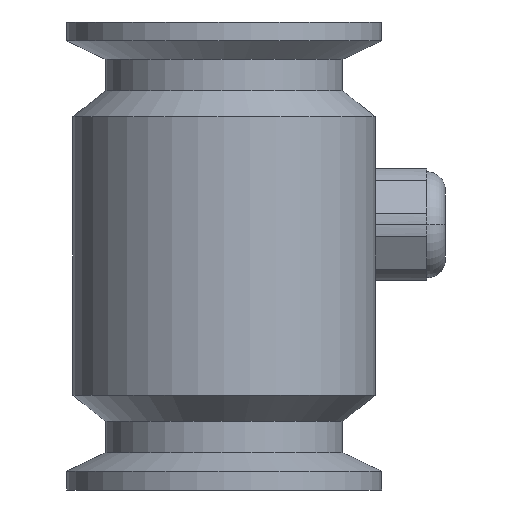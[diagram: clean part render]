
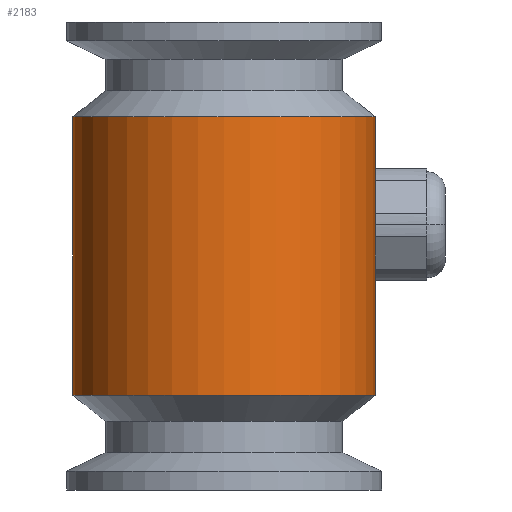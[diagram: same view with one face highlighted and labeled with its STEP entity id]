
A CAD part, front view. The second image highlights one B-rep face of the part: STEP entity #2183.
In plain terms, the highlighted cylindrical face has radius 24.25 mm (diameter 48.5 mm), a full revolution.
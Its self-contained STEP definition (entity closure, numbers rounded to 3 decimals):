
#506=LINE('',#9748,#1131);
#507=LINE('',#9752,#1132);
#1131=VECTOR('',#7634,1.);
#1132=VECTOR('',#7637,1.);
#2008=B_SPLINE_CURVE_WITH_KNOTS('',3,(#9754,#9755,#9756,#9757,#9758,#9759,
#9760,#9761,#9762,#9763),.UNSPECIFIED.,.F.,.F.,(4,2,2,2,4),(0.,0.25,0.5,
0.75,1.),.UNSPECIFIED.);
#2009=B_SPLINE_CURVE_WITH_KNOTS('',3,(#9765,#9766,#9767,#9768,#9769,#9770,
#9771,#9772,#9773,#9774),.UNSPECIFIED.,.F.,.F.,(4,2,2,2,4),(0.,0.25,0.5,
0.75,1.),.UNSPECIFIED.);
#2183=ADVANCED_FACE('',(#2641,#2642,#2643),#2569,.T.);
#2569=CYLINDRICAL_SURFACE('',#7049,24.25);
#2641=FACE_BOUND('',#2746,.T.);
#2642=FACE_BOUND('',#2747,.T.);
#2643=FACE_BOUND('',#2748,.T.);
#2746=EDGE_LOOP('',(#3205,#3206,#3207,#3208));
#2747=EDGE_LOOP('',(#3209));
#2748=EDGE_LOOP('',(#3210));
#3205=ORIENTED_EDGE('',*,*,#5851,.T.);
#3206=ORIENTED_EDGE('',*,*,#5850,.F.);
#3207=ORIENTED_EDGE('',*,*,#5852,.T.);
#3208=ORIENTED_EDGE('',*,*,#5848,.F.);
#3209=ORIENTED_EDGE('',*,*,#5853,.T.);
#3210=ORIENTED_EDGE('',*,*,#5854,.T.);
#5185=VERTEX_POINT('',#9746);
#5186=VERTEX_POINT('',#9747);
#5187=VERTEX_POINT('',#9749);
#5188=VERTEX_POINT('',#9751);
#5189=VERTEX_POINT('',#9776);
#5190=VERTEX_POINT('',#9778);
#5848=EDGE_CURVE('',#5185,#5187,#506,.T.);
#5850=EDGE_CURVE('',#5188,#5186,#507,.T.);
#5851=EDGE_CURVE('',#5185,#5186,#2008,.T.);
#5852=EDGE_CURVE('',#5188,#5187,#2009,.T.);
#5853=EDGE_CURVE('',#5189,#5189,#6837,.T.);
#5854=EDGE_CURVE('',#5190,#5190,#6838,.T.);
#6837=CIRCLE('',#7047,24.25);
#6838=CIRCLE('',#7048,24.25);
#7047=AXIS2_PLACEMENT_3D('',#9775,#7642,#7643);
#7048=AXIS2_PLACEMENT_3D('',#9777,#7644,#7645);
#7049=AXIS2_PLACEMENT_3D('',#9779,#7646,#7647);
#7634=DIRECTION('',(0.,0.,-1.));
#7637=DIRECTION('',(0.,0.,1.));
#7642=DIRECTION('',(0.,0.,-1.));
#7643=DIRECTION('',(-1.,0.,0.));
#7644=DIRECTION('',(0.,0.,1.));
#7645=DIRECTION('',(1.,0.,0.));
#7646=DIRECTION('',(0.,0.,-1.));
#7647=DIRECTION('',(-1.,0.,0.));
#9746=CARTESIAN_POINT('',(9.045,22.5,6.843));
#9747=CARTESIAN_POINT('',(-9.045,22.5,6.872));
#9748=CARTESIAN_POINT('',(9.045,22.5,48.5));
#9749=CARTESIAN_POINT('',(9.045,22.5,-12.843));
#9751=CARTESIAN_POINT('',(-9.045,22.5,-12.872));
#9752=CARTESIAN_POINT('',(-9.045,22.5,-12.872));
#9754=CARTESIAN_POINT('',(9.045,22.5,6.843));
#9755=CARTESIAN_POINT('',(8.039,22.905,8.32));
#9756=CARTESIAN_POINT('',(6.758,23.343,9.631));
#9757=CARTESIAN_POINT('',(3.673,24.022,11.547));
#9758=CARTESIAN_POINT('',(1.841,24.25,12.127));
#9759=CARTESIAN_POINT('',(-1.838,24.25,12.131));
#9760=CARTESIAN_POINT('',(-3.683,24.021,11.55));
#9761=CARTESIAN_POINT('',(-6.763,23.341,9.643));
#9762=CARTESIAN_POINT('',(-8.035,22.906,8.346));
#9763=CARTESIAN_POINT('',(-9.045,22.5,6.872));
#9765=CARTESIAN_POINT('',(-9.045,22.5,-12.872));
#9766=CARTESIAN_POINT('',(-8.031,22.908,-14.352));
#9767=CARTESIAN_POINT('',(-6.75,23.346,-15.657));
#9768=CARTESIAN_POINT('',(-3.645,24.027,-17.568));
#9769=CARTESIAN_POINT('',(-1.835,24.251,-18.132));
#9770=CARTESIAN_POINT('',(1.851,24.249,-18.125));
#9771=CARTESIAN_POINT('',(3.679,24.021,-17.543));
#9772=CARTESIAN_POINT('',(6.755,23.343,-15.632));
#9773=CARTESIAN_POINT('',(8.03,22.908,-14.332));
#9774=CARTESIAN_POINT('',(9.045,22.5,-12.843));
#9775=CARTESIAN_POINT('',(0.,0.,14.3));
#9776=CARTESIAN_POINT('',(-24.25,0.,14.3));
#9777=CARTESIAN_POINT('',(0.,0.,-30.3));
#9778=CARTESIAN_POINT('',(24.25,0.,-30.3));
#9779=CARTESIAN_POINT('',(0.,0.,48.5));
